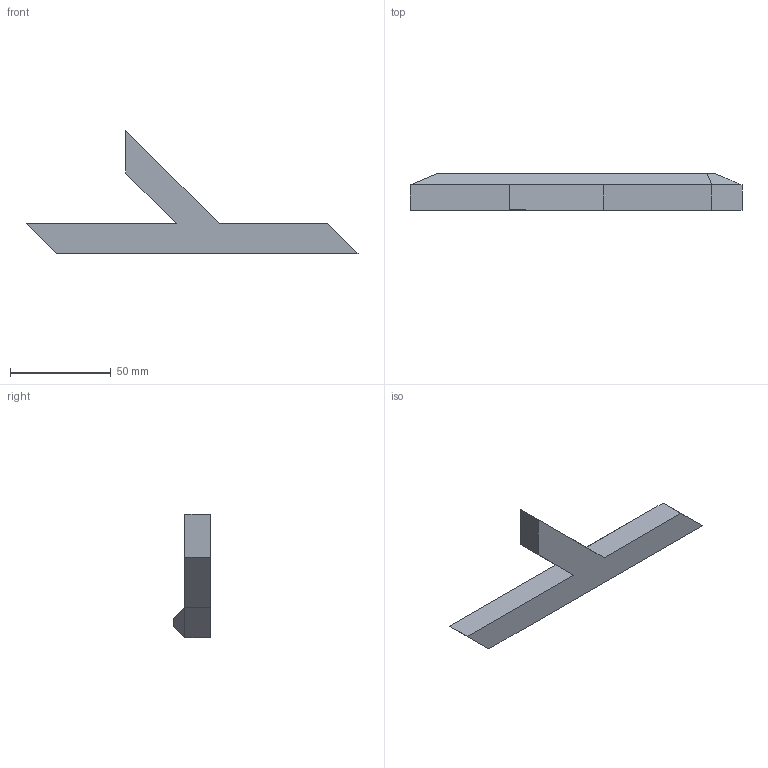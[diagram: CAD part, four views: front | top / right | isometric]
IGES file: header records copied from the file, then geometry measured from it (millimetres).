
Global section: file name: Untitled; native system: unknown; preprocessor: unknown; author: unknown; organization: unknown; date: 20150512.140723; units: millimetre
Bounding box: 164.44 x 18 x 61.21 mm (x, y, z)
Volume: 44941.6 mm3; surface area: 12225.7 mm2
Topology: 1 solids, 1 shells, 15 faces, 33 edges, 20 vertices
Faces by surface type: bspline 15
